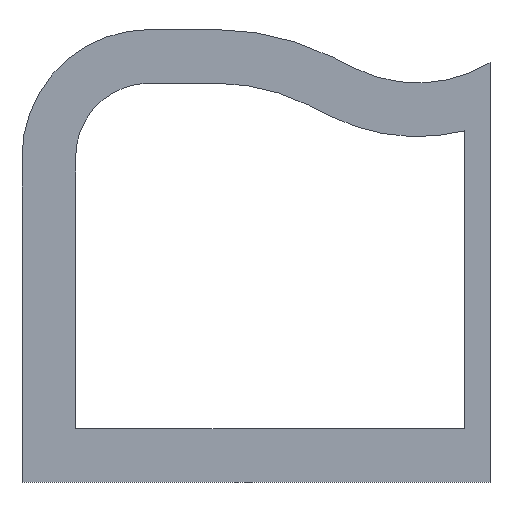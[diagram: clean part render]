
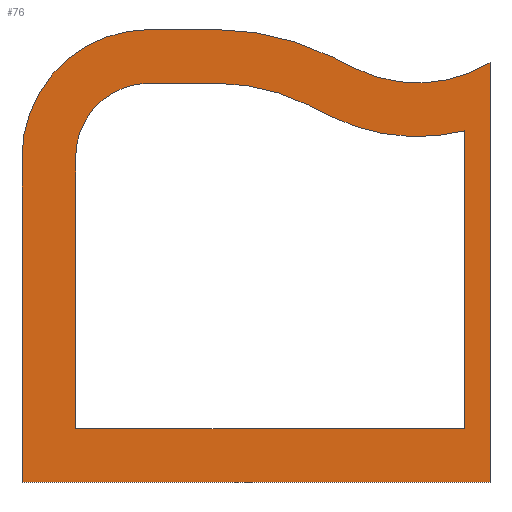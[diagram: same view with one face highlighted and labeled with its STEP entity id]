
A CAD part, top view. The second image highlights one B-rep face of the part: STEP entity #76.
In plain terms, the highlighted planar face has unit normal (0, 0, 1).
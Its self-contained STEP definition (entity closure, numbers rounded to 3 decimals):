
#76=ADVANCED_FACE('',(#234,#236),#238,.T.);
#234=FACE_BOUND('',#235,.T.);
#235=EDGE_LOOP('',(#358,#359,#360,#361,#362,#363,#364,#365));
#236=FACE_BOUND('',#237,.T.);
#237=EDGE_LOOP('',(#366,#367,#368,#369,#370,#371,#372,#373));
#238=PLANE('',#239);
#239=AXIS2_PLACEMENT_3D('',#240,#241,#242);
#240=CARTESIAN_POINT('',(0.,0.,0.6));
#241=DIRECTION('',(0.,0.,1.));
#242=DIRECTION('',(1.,0.,0.));
#358=ORIENTED_EDGE('',*,*,#454,.T.);
#359=ORIENTED_EDGE('',*,*,#453,.T.);
#360=ORIENTED_EDGE('',*,*,#455,.T.);
#361=ORIENTED_EDGE('',*,*,#456,.T.);
#362=ORIENTED_EDGE('',*,*,#457,.T.);
#363=ORIENTED_EDGE('',*,*,#458,.T.);
#364=ORIENTED_EDGE('',*,*,#447,.T.);
#365=ORIENTED_EDGE('',*,*,#459,.T.);
#366=ORIENTED_EDGE('',*,*,#460,.T.);
#367=ORIENTED_EDGE('',*,*,#461,.T.);
#368=ORIENTED_EDGE('',*,*,#462,.T.);
#369=ORIENTED_EDGE('',*,*,#463,.T.);
#370=ORIENTED_EDGE('',*,*,#464,.T.);
#371=ORIENTED_EDGE('',*,*,#465,.T.);
#372=ORIENTED_EDGE('',*,*,#466,.T.);
#373=ORIENTED_EDGE('',*,*,#467,.T.);
#447=EDGE_CURVE('',#497,#495,#498,.F.);
#453=EDGE_CURVE('',#502,#507,#509,.F.);
#454=EDGE_CURVE('',#510,#502,#511,.F.);
#455=EDGE_CURVE('',#507,#512,#513,.F.);
#456=EDGE_CURVE('',#512,#514,#515,.F.);
#457=EDGE_CURVE('',#514,#516,#517,.F.);
#458=EDGE_CURVE('',#516,#497,#518,.F.);
#459=EDGE_CURVE('',#495,#510,#519,.F.);
#460=EDGE_CURVE('',#520,#521,#522,.T.);
#461=EDGE_CURVE('',#521,#523,#524,.T.);
#462=EDGE_CURVE('',#523,#525,#526,.T.);
#463=EDGE_CURVE('',#525,#527,#528,.T.);
#464=EDGE_CURVE('',#527,#529,#530,.T.);
#465=EDGE_CURVE('',#529,#531,#532,.T.);
#466=EDGE_CURVE('',#531,#533,#534,.T.);
#467=EDGE_CURVE('',#533,#520,#535,.T.);
#495=VERTEX_POINT('',#575);
#497=VERTEX_POINT('',#579);
#498=LINE('',#580,#581);
#502=VERTEX_POINT('',#590);
#507=VERTEX_POINT('',#600);
#509=CIRCLE('',#604,42.);
#510=VERTEX_POINT('',#608);
#511=LINE('',#609,#610);
#512=VERTEX_POINT('',#612);
#513=LINE('',#613,#614);
#514=VERTEX_POINT('',#616);
#515=CIRCLE('',#617,78.);
#516=VERTEX_POINT('',#621);
#517=LINE('',#622,#623);
#518=CIRCLE('',#625,38.);
#519=LINE('',#629,#630);
#520=VERTEX_POINT('',#632);
#521=VERTEX_POINT('',#633);
#522=LINE('',#634,#635);
#523=VERTEX_POINT('',#637);
#524=CIRCLE('',#638,22.);
#525=VERTEX_POINT('',#642);
#526=LINE('',#643,#644);
#527=VERTEX_POINT('',#646);
#528=CIRCLE('',#647,62.);
#529=VERTEX_POINT('',#651);
#530=LINE('',#652,#653);
#531=VERTEX_POINT('',#655);
#532=CIRCLE('',#656,58.);
#533=VERTEX_POINT('',#660);
#534=LINE('',#661,#662);
#535=LINE('',#664,#665);
#575=CARTESIAN_POINT('',(-298.,0.,0.6));
#579=CARTESIAN_POINT('',(-298.,97.073,0.6));
#580=CARTESIAN_POINT('',(-298.,0.,0.6));
#581=VECTOR('',#582,1.);
#582=DIRECTION('',(0.,1.,0.));
#590=CARTESIAN_POINT('',(-158.436,125.126,0.6));
#600=CARTESIAN_POINT('',(-198.786,123.535,0.6));
#604=AXIS2_PLACEMENT_3D('',#605,#606,#607);
#605=CARTESIAN_POINT('',(-180.062,161.13,0.6));
#606=DIRECTION('',(-0.,0.,1.));
#607=DIRECTION('',(-0.446,-0.895,0.));
#608=CARTESIAN_POINT('',(-158.436,0.,0.6));
#609=CARTESIAN_POINT('',(-158.436,125.126,0.6));
#610=VECTOR('',#611,1.);
#611=DIRECTION('',(0.,-1.,0.));
#612=CARTESIAN_POINT('',(-205.529,126.893,0.6));
#613=CARTESIAN_POINT('',(-205.529,126.893,0.6));
#614=VECTOR('',#615,1.);
#615=DIRECTION('',(0.895,-0.446,0.));
#616=CARTESIAN_POINT('',(-240.302,135.073,0.6));
#617=AXIS2_PLACEMENT_3D('',#618,#619,#620);
#618=CARTESIAN_POINT('',(-240.302,57.073,0.6));
#619=DIRECTION('',(0.,0.,-1.));
#620=DIRECTION('',(0.,1.,0.));
#621=CARTESIAN_POINT('',(-260.,135.073,0.6));
#622=CARTESIAN_POINT('',(-260.,135.073,0.6));
#623=VECTOR('',#624,1.);
#624=DIRECTION('',(1.,0.,0.));
#625=AXIS2_PLACEMENT_3D('',#626,#627,#628);
#626=CARTESIAN_POINT('',(-260.,97.073,0.6));
#627=DIRECTION('',(0.,0.,-1.));
#628=DIRECTION('',(-1.,0.,0.));
#629=CARTESIAN_POINT('',(-158.436,0.,0.6));
#630=VECTOR('',#631,1.);
#631=DIRECTION('',(-1.,0.,0.));
#632=CARTESIAN_POINT('',(-282.,16.,0.6));
#633=CARTESIAN_POINT('',(-282.,97.073,0.6));
#634=CARTESIAN_POINT('',(-282.,16.,0.6));
#635=VECTOR('',#636,1.);
#636=DIRECTION('',(0.,1.,0.));
#637=CARTESIAN_POINT('',(-260.,119.073,0.6));
#638=AXIS2_PLACEMENT_3D('',#639,#640,#641);
#639=CARTESIAN_POINT('',(-260.,97.073,0.6));
#640=DIRECTION('',(0.,0.,-1.));
#641=DIRECTION('',(-1.,0.,0.));
#642=CARTESIAN_POINT('',(-240.302,119.073,0.6));
#643=CARTESIAN_POINT('',(-260.,119.073,0.6));
#644=VECTOR('',#645,1.);
#645=DIRECTION('',(1.,0.,0.));
#646=CARTESIAN_POINT('',(-212.662,112.571,0.6));
#647=AXIS2_PLACEMENT_3D('',#648,#649,#650);
#648=CARTESIAN_POINT('',(-240.302,57.073,0.6));
#649=DIRECTION('',(0.,0.,-1.));
#650=DIRECTION('',(0.,1.,0.));
#651=CARTESIAN_POINT('',(-205.919,109.213,0.6));
#652=CARTESIAN_POINT('',(-212.662,112.571,0.6));
#653=VECTOR('',#654,1.);
#654=DIRECTION('',(0.895,-0.446,0.));
#655=CARTESIAN_POINT('',(-166.,104.861,0.6));
#656=AXIS2_PLACEMENT_3D('',#657,#658,#659);
#657=CARTESIAN_POINT('',(-180.062,161.13,0.6));
#658=DIRECTION('',(0.,0.,1.));
#659=DIRECTION('',(-0.446,-0.895,0.));
#660=CARTESIAN_POINT('',(-166.,16.,0.6));
#661=CARTESIAN_POINT('',(-166.,104.861,0.6));
#662=VECTOR('',#663,1.);
#663=DIRECTION('',(0.,-1.,0.));
#664=CARTESIAN_POINT('',(-166.,16.,0.6));
#665=VECTOR('',#666,1.);
#666=DIRECTION('',(-1.,0.,0.));
